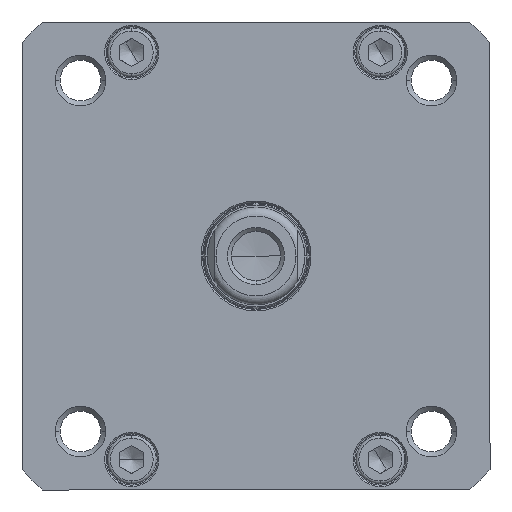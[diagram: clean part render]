
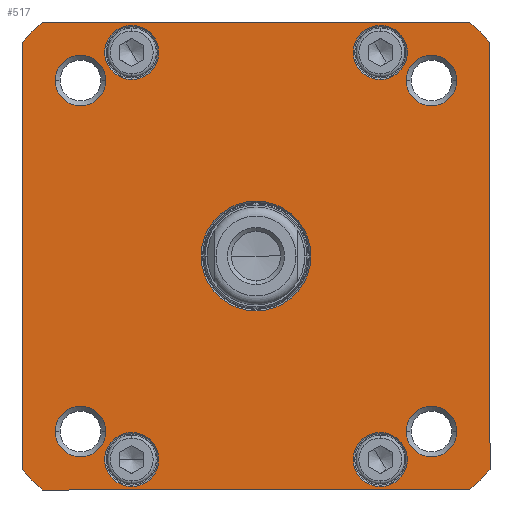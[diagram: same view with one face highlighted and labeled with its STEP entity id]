
A CAD part, front view. The second image highlights one B-rep face of the part: STEP entity #517.
In plain terms, the highlighted planar face has unit normal (0, -1, 0).
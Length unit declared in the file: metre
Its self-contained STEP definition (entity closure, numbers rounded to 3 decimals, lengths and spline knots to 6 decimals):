
#517=ADVANCED_FACE('',(#919,#920,#921,#922,#923,#924,#925,#926,#927,#928),#929,.F.);
#919=FACE_OUTER_BOUND('',#1628,.T.);
#920=FACE_BOUND('',#1629,.T.);
#921=FACE_BOUND('',#1630,.T.);
#922=FACE_BOUND('',#1631,.T.);
#923=FACE_BOUND('',#1632,.T.);
#924=FACE_BOUND('',#1633,.T.);
#925=FACE_BOUND('',#1634,.T.);
#926=FACE_BOUND('',#1635,.T.);
#927=FACE_BOUND('',#1636,.T.);
#928=FACE_BOUND('',#1637,.T.);
#929=PLANE('',#1638);
#1628=EDGE_LOOP('',(#2896,#2897,#2898,#2899,#2900,#2901,#2902,#2903));
#1629=EDGE_LOOP('',(#2904,#2905));
#1630=EDGE_LOOP('',(#2906,#2907));
#1631=EDGE_LOOP('',(#2908,#2909));
#1632=EDGE_LOOP('',(#2910,#2911));
#1633=EDGE_LOOP('',(#2912,#2913));
#1634=EDGE_LOOP('',(#2914,#2915));
#1635=EDGE_LOOP('',(#2916,#2917));
#1636=EDGE_LOOP('',(#2918,#2919));
#1637=EDGE_LOOP('',(#2920,#2921));
#1638=AXIS2_PLACEMENT_3D('',#2922,#2923,#2924);
#2896=ORIENTED_EDGE('',*,*,#4965,.F.);
#2897=ORIENTED_EDGE('',*,*,#4966,.F.);
#2898=ORIENTED_EDGE('',*,*,#4967,.F.);
#2899=ORIENTED_EDGE('',*,*,#4968,.F.);
#2900=ORIENTED_EDGE('',*,*,#4969,.F.);
#2901=ORIENTED_EDGE('',*,*,#4970,.F.);
#2902=ORIENTED_EDGE('',*,*,#4971,.F.);
#2903=ORIENTED_EDGE('',*,*,#4972,.F.);
#2904=ORIENTED_EDGE('',*,*,#4973,.F.);
#2905=ORIENTED_EDGE('',*,*,#4852,.F.);
#2906=ORIENTED_EDGE('',*,*,#4974,.F.);
#2907=ORIENTED_EDGE('',*,*,#4820,.F.);
#2908=ORIENTED_EDGE('',*,*,#4975,.F.);
#2909=ORIENTED_EDGE('',*,*,#4804,.F.);
#2910=ORIENTED_EDGE('',*,*,#4976,.F.);
#2911=ORIENTED_EDGE('',*,*,#4788,.F.);
#2912=ORIENTED_EDGE('',*,*,#4977,.F.);
#2913=ORIENTED_EDGE('',*,*,#4772,.F.);
#2914=ORIENTED_EDGE('',*,*,#4978,.F.);
#2915=ORIENTED_EDGE('',*,*,#4780,.F.);
#2916=ORIENTED_EDGE('',*,*,#4979,.F.);
#2917=ORIENTED_EDGE('',*,*,#4796,.F.);
#2918=ORIENTED_EDGE('',*,*,#4980,.F.);
#2919=ORIENTED_EDGE('',*,*,#4808,.F.);
#2920=ORIENTED_EDGE('',*,*,#4981,.F.);
#2921=ORIENTED_EDGE('',*,*,#4832,.F.);
#2922=CARTESIAN_POINT('',(0.,-0.09735,0.));
#2923=DIRECTION('',(-0.0,1.0,0.0));
#2924=DIRECTION('',(1.0,0.0,0.0));
#4772=EDGE_CURVE('',#6008,#6010,#6011,.T.);
#4780=EDGE_CURVE('',#6022,#6024,#6025,.T.);
#4788=EDGE_CURVE('',#6036,#6038,#6039,.T.);
#4796=EDGE_CURVE('',#6050,#6052,#6053,.T.);
#4804=EDGE_CURVE('',#6064,#6066,#6067,.T.);
#4808=EDGE_CURVE('',#6070,#6073,#6074,.T.);
#4820=EDGE_CURVE('',#6090,#6093,#6094,.T.);
#4832=EDGE_CURVE('',#6110,#6113,#6114,.T.);
#4852=EDGE_CURVE('',#6144,#6146,#6147,.T.);
#4965=EDGE_CURVE('',#6357,#6358,#6359,.T.);
#4966=EDGE_CURVE('',#6360,#6357,#6361,.T.);
#4967=EDGE_CURVE('',#6362,#6360,#6363,.T.);
#4968=EDGE_CURVE('',#6364,#6362,#6365,.T.);
#4969=EDGE_CURVE('',#6366,#6364,#6367,.T.);
#4970=EDGE_CURVE('',#6368,#6366,#6369,.T.);
#4971=EDGE_CURVE('',#6370,#6368,#6371,.T.);
#4972=EDGE_CURVE('',#6358,#6370,#6372,.T.);
#4973=EDGE_CURVE('',#6146,#6144,#6373,.T.);
#4974=EDGE_CURVE('',#6093,#6090,#6374,.T.);
#4975=EDGE_CURVE('',#6066,#6064,#6375,.T.);
#4976=EDGE_CURVE('',#6038,#6036,#6376,.T.);
#4977=EDGE_CURVE('',#6010,#6008,#6377,.T.);
#4978=EDGE_CURVE('',#6024,#6022,#6378,.T.);
#4979=EDGE_CURVE('',#6052,#6050,#6379,.T.);
#4980=EDGE_CURVE('',#6073,#6070,#6380,.T.);
#4981=EDGE_CURVE('',#6113,#6110,#6381,.T.);
#6008=VERTEX_POINT('',#7558);
#6010=VERTEX_POINT('',#7561);
#6011=CIRCLE('',#7562,0.01125);
#6022=VERTEX_POINT('',#7576);
#6024=VERTEX_POINT('',#7579);
#6025=CIRCLE('',#7580,0.00555);
#6036=VERTEX_POINT('',#7594);
#6038=VERTEX_POINT('',#7597);
#6039=CIRCLE('',#7598,0.00555);
#6050=VERTEX_POINT('',#7612);
#6052=VERTEX_POINT('',#7615);
#6053=CIRCLE('',#7616,0.00555);
#6064=VERTEX_POINT('',#7630);
#6066=VERTEX_POINT('',#7633);
#6067=CIRCLE('',#7634,0.00555);
#6070=VERTEX_POINT('',#7638);
#6073=VERTEX_POINT('',#7642);
#6074=CIRCLE('',#7643,0.005188);
#6090=VERTEX_POINT('',#7664);
#6093=VERTEX_POINT('',#7668);
#6094=CIRCLE('',#7669,0.005188);
#6110=VERTEX_POINT('',#7690);
#6113=VERTEX_POINT('',#7694);
#6114=CIRCLE('',#7695,0.005188);
#6144=VERTEX_POINT('',#7734);
#6146=VERTEX_POINT('',#7737);
#6147=CIRCLE('',#7738,0.005188);
#6357=VERTEX_POINT('',#8261);
#6358=VERTEX_POINT('',#8262);
#6359=CIRCLE('',#8263,0.065);
#6360=VERTEX_POINT('',#8264);
#6361=LINE('',#8265,#8266);
#6362=VERTEX_POINT('',#8267);
#6363=CIRCLE('',#8268,0.065);
#6364=VERTEX_POINT('',#8269);
#6365=LINE('',#8270,#8271);
#6366=VERTEX_POINT('',#8272);
#6367=CIRCLE('',#8273,0.065);
#6368=VERTEX_POINT('',#8274);
#6369=LINE('',#8275,#8276);
#6370=VERTEX_POINT('',#8277);
#6371=CIRCLE('',#8278,0.065);
#6372=LINE('',#8279,#8280);
#6373=CIRCLE('',#8281,0.005188);
#6374=CIRCLE('',#8282,0.005188);
#6375=CIRCLE('',#8283,0.00555);
#6376=CIRCLE('',#8284,0.00555);
#6377=CIRCLE('',#8285,0.01125);
#6378=CIRCLE('',#8286,0.00555);
#6379=CIRCLE('',#8287,0.00555);
#6380=CIRCLE('',#8288,0.005188);
#6381=CIRCLE('',#8289,0.005188);
#7558=CARTESIAN_POINT('',(0.01125,-0.09735,0.));
#7561=CARTESIAN_POINT('',(-0.01125,-0.09735,0.));
#7562=AXIS2_PLACEMENT_3D('',#10055,#10056,#10057);
#7576=CARTESIAN_POINT('',(-0.03105,-0.09735,0.04175));
#7579=CARTESIAN_POINT('',(-0.01995,-0.09735,0.04175));
#7580=AXIS2_PLACEMENT_3D('',#10071,#10072,#10073);
#7594=CARTESIAN_POINT('',(0.01995,-0.09735,0.04175));
#7597=CARTESIAN_POINT('',(0.03105,-0.09735,0.04175));
#7598=AXIS2_PLACEMENT_3D('',#10087,#10088,#10089);
#7612=CARTESIAN_POINT('',(0.01995,-0.09735,-0.04175));
#7615=CARTESIAN_POINT('',(0.03105,-0.09735,-0.04175));
#7616=AXIS2_PLACEMENT_3D('',#10103,#10104,#10105);
#7630=CARTESIAN_POINT('',(-0.03105,-0.09735,-0.04175));
#7633=CARTESIAN_POINT('',(-0.01995,-0.09735,-0.04175));
#7634=AXIS2_PLACEMENT_3D('',#10119,#10120,#10121);
#7638=CARTESIAN_POINT('',(-0.041188,-0.09735,0.036));
#7642=CARTESIAN_POINT('',(-0.030812,-0.09735,0.036));
#7643=AXIS2_PLACEMENT_3D('',#10127,#10128,#10129);
#7664=CARTESIAN_POINT('',(0.030812,-0.09735,0.036));
#7668=CARTESIAN_POINT('',(0.041188,-0.09735,0.036));
#7669=AXIS2_PLACEMENT_3D('',#10151,#10152,#10153);
#7690=CARTESIAN_POINT('',(0.030812,-0.09735,-0.036));
#7694=CARTESIAN_POINT('',(0.041188,-0.09735,-0.036));
#7695=AXIS2_PLACEMENT_3D('',#10175,#10176,#10177);
#7734=CARTESIAN_POINT('',(-0.041188,-0.09735,-0.036));
#7737=CARTESIAN_POINT('',(-0.030812,-0.09735,-0.036));
#7738=AXIS2_PLACEMENT_3D('',#10215,#10216,#10217);
#8261=CARTESIAN_POINT('',(0.043829,-0.09735,0.048));
#8262=CARTESIAN_POINT('',(0.048,-0.09735,0.043829));
#8263=AXIS2_PLACEMENT_3D('',#10390,#10391,#10392);
#8264=CARTESIAN_POINT('',(-0.043829,-0.09735,0.048));
#8265=CARTESIAN_POINT('',(-0.043829,-0.09735,0.048));
#8266=VECTOR('',#10393,0.087658);
#8267=CARTESIAN_POINT('',(-0.048,-0.09735,0.043829));
#8268=AXIS2_PLACEMENT_3D('',#10394,#10395,#10396);
#8269=CARTESIAN_POINT('',(-0.048,-0.09735,-0.043829));
#8270=CARTESIAN_POINT('',(-0.048,-0.09735,-0.043829));
#8271=VECTOR('',#10397,0.087658);
#8272=CARTESIAN_POINT('',(-0.043829,-0.09735,-0.048));
#8273=AXIS2_PLACEMENT_3D('',#10398,#10399,#10400);
#8274=CARTESIAN_POINT('',(0.043829,-0.09735,-0.048));
#8275=CARTESIAN_POINT('',(0.043829,-0.09735,-0.048));
#8276=VECTOR('',#10401,0.087658);
#8277=CARTESIAN_POINT('',(0.048,-0.09735,-0.043829));
#8278=AXIS2_PLACEMENT_3D('',#10402,#10403,#10404);
#8279=CARTESIAN_POINT('',(0.048,-0.09735,0.043829));
#8280=VECTOR('',#10405,0.087658);
#8281=AXIS2_PLACEMENT_3D('',#10406,#10407,#10408);
#8282=AXIS2_PLACEMENT_3D('',#10409,#10410,#10411);
#8283=AXIS2_PLACEMENT_3D('',#10412,#10413,#10414);
#8284=AXIS2_PLACEMENT_3D('',#10415,#10416,#10417);
#8285=AXIS2_PLACEMENT_3D('',#10418,#10419,#10420);
#8286=AXIS2_PLACEMENT_3D('',#10421,#10422,#10423);
#8287=AXIS2_PLACEMENT_3D('',#10424,#10425,#10426);
#8288=AXIS2_PLACEMENT_3D('',#10427,#10428,#10429);
#8289=AXIS2_PLACEMENT_3D('',#10430,#10431,#10432);
#10055=CARTESIAN_POINT('',(0.0,-0.09735,0.0));
#10056=DIRECTION('',(0.0,-1.0,0.0));
#10057=DIRECTION('',(1.0,0.0,0.0));
#10071=CARTESIAN_POINT('',(-0.0255,-0.09735,0.04175));
#10072=DIRECTION('',(0.0,-1.0,0.0));
#10073=DIRECTION('',(-1.0,0.0,0.0));
#10087=CARTESIAN_POINT('',(0.0255,-0.09735,0.04175));
#10088=DIRECTION('',(0.0,-1.0,0.0));
#10089=DIRECTION('',(-1.0,0.0,0.0));
#10103=CARTESIAN_POINT('',(0.0255,-0.09735,-0.04175));
#10104=DIRECTION('',(0.0,-1.0,0.0));
#10105=DIRECTION('',(-1.0,0.0,0.0));
#10119=CARTESIAN_POINT('',(-0.0255,-0.09735,-0.04175));
#10120=DIRECTION('',(0.0,-1.0,0.0));
#10121=DIRECTION('',(-1.0,0.0,0.0));
#10127=CARTESIAN_POINT('',(-0.036,-0.09735,0.036));
#10128=DIRECTION('',(0.0,-1.0,0.0));
#10129=DIRECTION('',(-1.0,0.0,0.0));
#10151=CARTESIAN_POINT('',(0.036,-0.09735,0.036));
#10152=DIRECTION('',(0.0,-1.0,0.0));
#10153=DIRECTION('',(-1.0,0.0,0.0));
#10175=CARTESIAN_POINT('',(0.036,-0.09735,-0.036));
#10176=DIRECTION('',(0.0,-1.0,0.0));
#10177=DIRECTION('',(-1.0,0.0,0.0));
#10215=CARTESIAN_POINT('',(-0.036,-0.09735,-0.036));
#10216=DIRECTION('',(0.0,-1.0,0.0));
#10217=DIRECTION('',(-1.0,0.0,0.0));
#10390=CARTESIAN_POINT('',(0.0,-0.09735,0.0));
#10391=DIRECTION('',(-0.0,1.0,0.0));
#10392=DIRECTION('',(0.674,0.0,0.738));
#10393=DIRECTION('',(1.0,0.0,0.0));
#10394=CARTESIAN_POINT('',(0.0,-0.09735,0.0));
#10395=DIRECTION('',(0.0,1.0,0.0));
#10396=DIRECTION('',(-0.738,0.0,0.674));
#10397=DIRECTION('',(0.0,0.0,1.0));
#10398=CARTESIAN_POINT('',(0.0,-0.09735,0.0));
#10399=DIRECTION('',(0.0,1.0,0.0));
#10400=DIRECTION('',(-0.674,0.0,-0.738));
#10401=DIRECTION('',(-1.0,0.0,0.0));
#10402=CARTESIAN_POINT('',(0.0,-0.09735,0.0));
#10403=DIRECTION('',(0.0,1.0,0.0));
#10404=DIRECTION('',(0.738,0.0,-0.674));
#10405=DIRECTION('',(0.0,0.0,-1.0));
#10406=CARTESIAN_POINT('',(-0.036,-0.09735,-0.036));
#10407=DIRECTION('',(0.0,-1.0,0.0));
#10408=DIRECTION('',(-1.0,0.0,0.0));
#10409=CARTESIAN_POINT('',(0.036,-0.09735,0.036));
#10410=DIRECTION('',(0.0,-1.0,0.0));
#10411=DIRECTION('',(-1.0,0.0,0.0));
#10412=CARTESIAN_POINT('',(-0.0255,-0.09735,-0.04175));
#10413=DIRECTION('',(0.0,-1.0,0.0));
#10414=DIRECTION('',(-1.0,0.0,0.0));
#10415=CARTESIAN_POINT('',(0.0255,-0.09735,0.04175));
#10416=DIRECTION('',(0.0,-1.0,0.0));
#10417=DIRECTION('',(-1.0,0.0,0.0));
#10418=CARTESIAN_POINT('',(0.0,-0.09735,0.0));
#10419=DIRECTION('',(0.0,-1.0,0.0));
#10420=DIRECTION('',(1.0,0.0,0.0));
#10421=CARTESIAN_POINT('',(-0.0255,-0.09735,0.04175));
#10422=DIRECTION('',(0.0,-1.0,0.0));
#10423=DIRECTION('',(-1.0,0.0,0.0));
#10424=CARTESIAN_POINT('',(0.0255,-0.09735,-0.04175));
#10425=DIRECTION('',(0.0,-1.0,0.0));
#10426=DIRECTION('',(-1.0,0.0,0.0));
#10427=CARTESIAN_POINT('',(-0.036,-0.09735,0.036));
#10428=DIRECTION('',(0.0,-1.0,0.0));
#10429=DIRECTION('',(-1.0,0.0,0.0));
#10430=CARTESIAN_POINT('',(0.036,-0.09735,-0.036));
#10431=DIRECTION('',(0.0,-1.0,0.0));
#10432=DIRECTION('',(-1.0,0.0,0.0));
